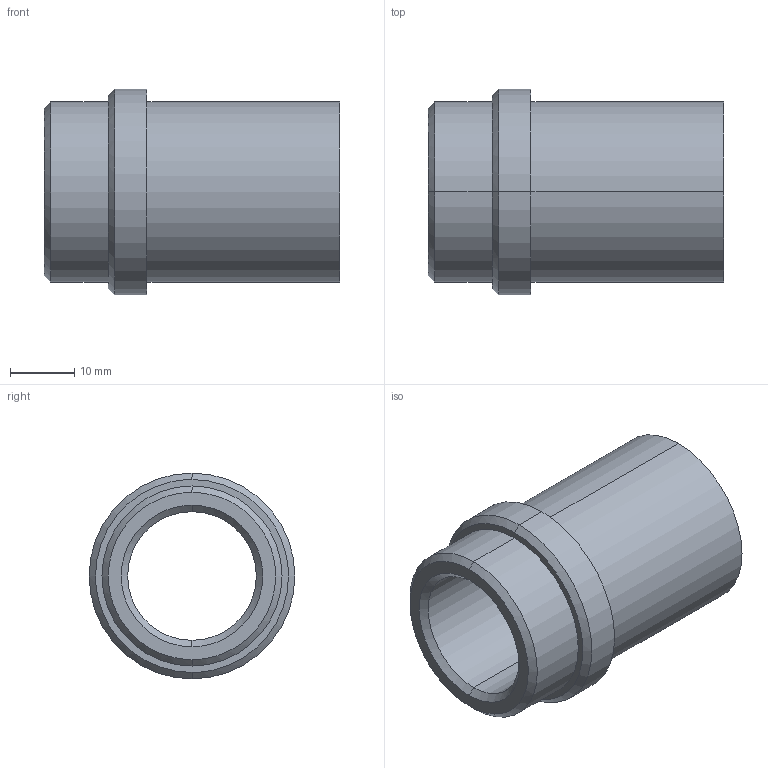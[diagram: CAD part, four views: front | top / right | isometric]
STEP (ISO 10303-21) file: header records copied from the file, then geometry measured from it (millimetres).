
FILE_DESCRIPTION(('CATIA V5 STEP Exchange'),'2;1');
FILE_NAME('C:\Users\Utente\Desktop\IO LAVORO\3D X SITO CF\X SITO\PLASTICA\358\358-20x46.stp','2021-04-08T12:47:01+00:00',('none'),('none'),'CATIA Version 5 Release 20 GA (IN-10)','CATIA V5 STEP AP203','none');
FILE_SCHEMA(('CONFIG_CONTROL_DESIGN'));
Length unit declared in the file: millimetre
Products named in the file (1): 358-20X46
Bounding box: 46 x 32 x 32 mm (x, y, z)
Volume: 14823.3 mm3; surface area: 7791.5 mm2
Topology: 1 solids, 1 shells, 20 faces, 64 edges, 48 vertices
Faces by surface type: cylinder 8, cone 6, plane 4, torus 2
Entity records: 906 total; most frequent: CARTESIAN_POINT 301, ORIENTED_EDGE 128, DIRECTION 92, EDGE_CURVE 64, AXIS2_PLACEMENT_3D 59, VERTEX_POINT 48, CIRCLE 38, EDGE_LOOP 24
